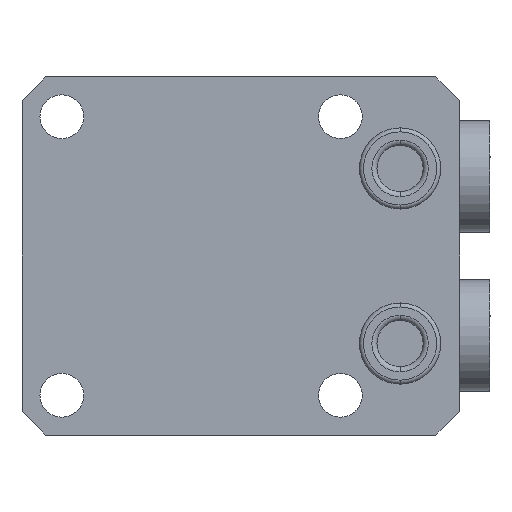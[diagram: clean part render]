
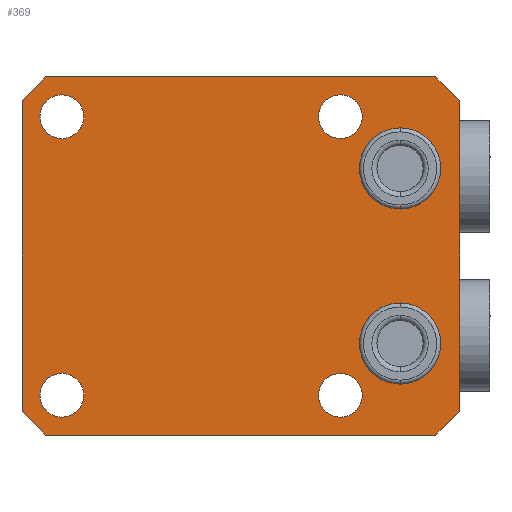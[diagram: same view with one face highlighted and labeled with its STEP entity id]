
A CAD part, front view. The second image highlights one B-rep face of the part: STEP entity #369.
In plain terms, the highlighted planar face has unit normal (0, -1, 0).
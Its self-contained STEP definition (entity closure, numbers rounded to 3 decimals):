
#232=PLANE('',#2699);
#293=FACE_BOUND('',#717,.T.);
#294=FACE_BOUND('',#718,.T.);
#295=FACE_BOUND('',#719,.T.);
#296=FACE_BOUND('',#720,.T.);
#297=FACE_BOUND('',#721,.T.);
#298=FACE_BOUND('',#722,.T.);
#299=FACE_BOUND('',#723,.T.);
#369=ADVANCED_FACE('',(#293,#294,#295,#296,#297,#298,#299),#232,.F.);
#717=EDGE_LOOP('',(#1124,#1125,#1126,#1127,#1128,#1129,#1130,#1131));
#718=EDGE_LOOP('',(#1132,#1133));
#719=EDGE_LOOP('',(#1134,#1135));
#720=EDGE_LOOP('',(#1136,#1137));
#721=EDGE_LOOP('',(#1138,#1139));
#722=EDGE_LOOP('',(#1140,#1141));
#723=EDGE_LOOP('',(#1142,#1143));
#895=CIRCLE('',#2651,5.1);
#911=CIRCLE('',#2672,5.1);
#914=CIRCLE('',#2677,2.75);
#916=CIRCLE('',#2680,2.75);
#919=CIRCLE('',#2685,2.75);
#921=CIRCLE('',#2688,2.75);
#924=CIRCLE('',#2693,2.75);
#925=CIRCLE('',#2694,2.75);
#926=CIRCLE('',#2695,2.75);
#927=CIRCLE('',#2696,2.75);
#928=CIRCLE('',#2697,5.1);
#929=CIRCLE('',#2698,5.1);
#1124=ORIENTED_EDGE('',*,*,#2047,.F.);
#1125=ORIENTED_EDGE('',*,*,#2048,.T.);
#1126=ORIENTED_EDGE('',*,*,#2049,.F.);
#1127=ORIENTED_EDGE('',*,*,#2050,.T.);
#1128=ORIENTED_EDGE('',*,*,#1970,.F.);
#1129=ORIENTED_EDGE('',*,*,#2051,.T.);
#1130=ORIENTED_EDGE('',*,*,#2052,.F.);
#1131=ORIENTED_EDGE('',*,*,#2053,.T.);
#1132=ORIENTED_EDGE('',*,*,#2019,.F.);
#1133=ORIENTED_EDGE('',*,*,#2054,.F.);
#1134=ORIENTED_EDGE('',*,*,#2015,.F.);
#1135=ORIENTED_EDGE('',*,*,#2055,.F.);
#1136=ORIENTED_EDGE('',*,*,#2027,.F.);
#1137=ORIENTED_EDGE('',*,*,#2056,.F.);
#1138=ORIENTED_EDGE('',*,*,#2031,.F.);
#1139=ORIENTED_EDGE('',*,*,#2057,.F.);
#1140=ORIENTED_EDGE('',*,*,#2058,.F.);
#1141=ORIENTED_EDGE('',*,*,#2009,.F.);
#1142=ORIENTED_EDGE('',*,*,#1989,.T.);
#1143=ORIENTED_EDGE('',*,*,#2059,.T.);
#1744=VERTEX_POINT('',#3741);
#1745=VERTEX_POINT('',#3743);
#1758=VERTEX_POINT('',#3779);
#1759=VERTEX_POINT('',#3781);
#1772=VERTEX_POINT('',#3818);
#1773=VERTEX_POINT('',#3820);
#1778=VERTEX_POINT('',#3833);
#1779=VERTEX_POINT('',#3834);
#1782=VERTEX_POINT('',#3842);
#1783=VERTEX_POINT('',#3843);
#1790=VERTEX_POINT('',#3865);
#1791=VERTEX_POINT('',#3866);
#1794=VERTEX_POINT('',#3874);
#1795=VERTEX_POINT('',#3875);
#1810=VERTEX_POINT('',#3940);
#1811=VERTEX_POINT('',#3941);
#1812=VERTEX_POINT('',#3943);
#1813=VERTEX_POINT('',#3945);
#1814=VERTEX_POINT('',#3948);
#1815=VERTEX_POINT('',#3950);
#1970=EDGE_CURVE('',#1744,#1745,#2315,.T.);
#1989=EDGE_CURVE('',#1759,#1758,#895,.T.);
#2009=EDGE_CURVE('',#1772,#1773,#911,.T.);
#2015=EDGE_CURVE('',#1778,#1779,#914,.T.);
#2019=EDGE_CURVE('',#1782,#1783,#916,.T.);
#2027=EDGE_CURVE('',#1790,#1791,#919,.T.);
#2031=EDGE_CURVE('',#1794,#1795,#921,.T.);
#2047=EDGE_CURVE('',#1810,#1811,#2339,.T.);
#2048=EDGE_CURVE('',#1810,#1812,#2340,.T.);
#2049=EDGE_CURVE('',#1813,#1812,#2341,.T.);
#2050=EDGE_CURVE('',#1813,#1745,#2342,.T.);
#2051=EDGE_CURVE('',#1744,#1814,#2343,.T.);
#2052=EDGE_CURVE('',#1815,#1814,#2344,.T.);
#2053=EDGE_CURVE('',#1815,#1811,#2345,.T.);
#2054=EDGE_CURVE('',#1783,#1782,#924,.T.);
#2055=EDGE_CURVE('',#1779,#1778,#925,.T.);
#2056=EDGE_CURVE('',#1791,#1790,#926,.T.);
#2057=EDGE_CURVE('',#1795,#1794,#927,.T.);
#2058=EDGE_CURVE('',#1773,#1772,#928,.T.);
#2059=EDGE_CURVE('',#1758,#1759,#929,.T.);
#2315=LINE('',#3742,#2467);
#2339=LINE('',#3939,#2491);
#2340=LINE('',#3942,#2492);
#2341=LINE('',#3944,#2493);
#2342=LINE('',#3946,#2494);
#2343=LINE('',#3947,#2495);
#2344=LINE('',#3949,#2496);
#2345=LINE('',#3951,#2497);
#2467=VECTOR('',#2964,1.);
#2491=VECTOR('',#3110,1.);
#2492=VECTOR('',#3111,1.);
#2493=VECTOR('',#3112,1.);
#2494=VECTOR('',#3113,1.);
#2495=VECTOR('',#3114,1.);
#2496=VECTOR('',#3115,1.);
#2497=VECTOR('',#3116,1.);
#2651=AXIS2_PLACEMENT_3D('',#3780,#3007,#3008);
#2672=AXIS2_PLACEMENT_3D('',#3819,#3053,#3054);
#2677=AXIS2_PLACEMENT_3D('',#3832,#3066,#3067);
#2680=AXIS2_PLACEMENT_3D('',#3841,#3074,#3075);
#2685=AXIS2_PLACEMENT_3D('',#3864,#3088,#3089);
#2688=AXIS2_PLACEMENT_3D('',#3873,#3096,#3097);
#2693=AXIS2_PLACEMENT_3D('',#3952,#3117,#3118);
#2694=AXIS2_PLACEMENT_3D('',#3953,#3119,#3120);
#2695=AXIS2_PLACEMENT_3D('',#3954,#3121,#3122);
#2696=AXIS2_PLACEMENT_3D('',#3955,#3123,#3124);
#2697=AXIS2_PLACEMENT_3D('',#3956,#3125,#3126);
#2698=AXIS2_PLACEMENT_3D('',#3957,#3127,#3128);
#2699=AXIS2_PLACEMENT_3D('',#3958,#3129,#3130);
#2964=DIRECTION('',(0.,0.,-1.));
#3007=DIRECTION('',(0.,1.,0.));
#3008=DIRECTION('',(0.,0.,1.));
#3053=DIRECTION('',(0.,-1.,0.));
#3054=DIRECTION('',(0.,0.,-1.));
#3066=DIRECTION('',(0.,-1.,0.));
#3067=DIRECTION('',(0.,0.,1.));
#3074=DIRECTION('',(0.,-1.,0.));
#3075=DIRECTION('',(0.,0.,1.));
#3088=DIRECTION('',(0.,-1.,0.));
#3089=DIRECTION('',(0.,0.,1.));
#3096=DIRECTION('',(0.,-1.,0.));
#3097=DIRECTION('',(0.,0.,1.));
#3110=DIRECTION('',(0.,0.,1.));
#3111=DIRECTION('',(0.707,0.,-0.707));
#3112=DIRECTION('',(-1.,0.,0.));
#3113=DIRECTION('',(0.707,0.,0.707));
#3114=DIRECTION('',(-0.707,0.,0.707));
#3115=DIRECTION('',(1.,0.,0.));
#3116=DIRECTION('',(-0.707,0.,-0.707));
#3117=DIRECTION('',(0.,-1.,0.));
#3118=DIRECTION('',(0.,0.,1.));
#3119=DIRECTION('',(0.,-1.,0.));
#3120=DIRECTION('',(0.,0.,1.));
#3121=DIRECTION('',(0.,-1.,0.));
#3122=DIRECTION('',(0.,0.,1.));
#3123=DIRECTION('',(0.,-1.,0.));
#3124=DIRECTION('',(0.,0.,1.));
#3125=DIRECTION('',(0.,-1.,0.));
#3126=DIRECTION('',(0.,0.,-1.));
#3127=DIRECTION('',(0.,1.,0.));
#3128=DIRECTION('',(0.,0.,1.));
#3129=DIRECTION('',(0.,1.,0.));
#3130=DIRECTION('',(0.,0.,1.));
#3741=CARTESIAN_POINT('',(32.5,0.,19.5));
#3742=CARTESIAN_POINT('',(32.5,0.,-22.5));
#3743=CARTESIAN_POINT('',(32.5,0.,-19.5));
#3779=CARTESIAN_POINT('',(25.,0.,16.1));
#3780=CARTESIAN_POINT('',(25.,0.,11.));
#3781=CARTESIAN_POINT('',(25.,0.,5.9));
#3818=CARTESIAN_POINT('',(25.,0.,-5.9));
#3819=CARTESIAN_POINT('',(25.,0.,-11.));
#3820=CARTESIAN_POINT('',(25.,0.,-16.1));
#3832=CARTESIAN_POINT('',(-17.5,0.,-17.5));
#3833=CARTESIAN_POINT('',(-17.5,0.,-14.75));
#3834=CARTESIAN_POINT('',(-17.5,0.,-20.25));
#3841=CARTESIAN_POINT('',(17.5,0.,-17.5));
#3842=CARTESIAN_POINT('',(17.5,0.,-14.75));
#3843=CARTESIAN_POINT('',(17.5,0.,-20.25));
#3864=CARTESIAN_POINT('',(17.5,0.,17.5));
#3865=CARTESIAN_POINT('',(17.5,0.,20.25));
#3866=CARTESIAN_POINT('',(17.5,0.,14.75));
#3873=CARTESIAN_POINT('',(-17.5,0.,17.5));
#3874=CARTESIAN_POINT('',(-17.5,0.,20.25));
#3875=CARTESIAN_POINT('',(-17.5,0.,14.75));
#3939=CARTESIAN_POINT('',(-22.5,0.,-22.5));
#3940=CARTESIAN_POINT('',(-22.5,0.,-19.5));
#3941=CARTESIAN_POINT('',(-22.5,0.,19.5));
#3942=CARTESIAN_POINT('',(-22.5,0.,-19.5));
#3943=CARTESIAN_POINT('',(-19.5,0.,-22.5));
#3944=CARTESIAN_POINT('',(-22.5,0.,-22.5));
#3945=CARTESIAN_POINT('',(29.5,0.,-22.5));
#3946=CARTESIAN_POINT('',(29.5,0.,-22.5));
#3947=CARTESIAN_POINT('',(32.5,0.,19.5));
#3948=CARTESIAN_POINT('',(29.5,0.,22.5));
#3949=CARTESIAN_POINT('',(-22.5,0.,22.5));
#3950=CARTESIAN_POINT('',(-19.5,0.,22.5));
#3951=CARTESIAN_POINT('',(-19.5,0.,22.5));
#3952=CARTESIAN_POINT('',(17.5,0.,-17.5));
#3953=CARTESIAN_POINT('',(-17.5,0.,-17.5));
#3954=CARTESIAN_POINT('',(17.5,0.,17.5));
#3955=CARTESIAN_POINT('',(-17.5,0.,17.5));
#3956=CARTESIAN_POINT('',(25.,0.,-11.));
#3957=CARTESIAN_POINT('',(25.,0.,11.));
#3958=CARTESIAN_POINT('',(-22.5,0.,22.5));
